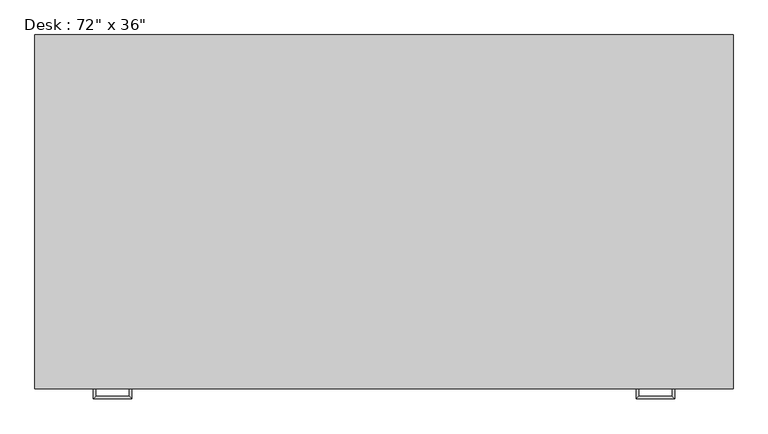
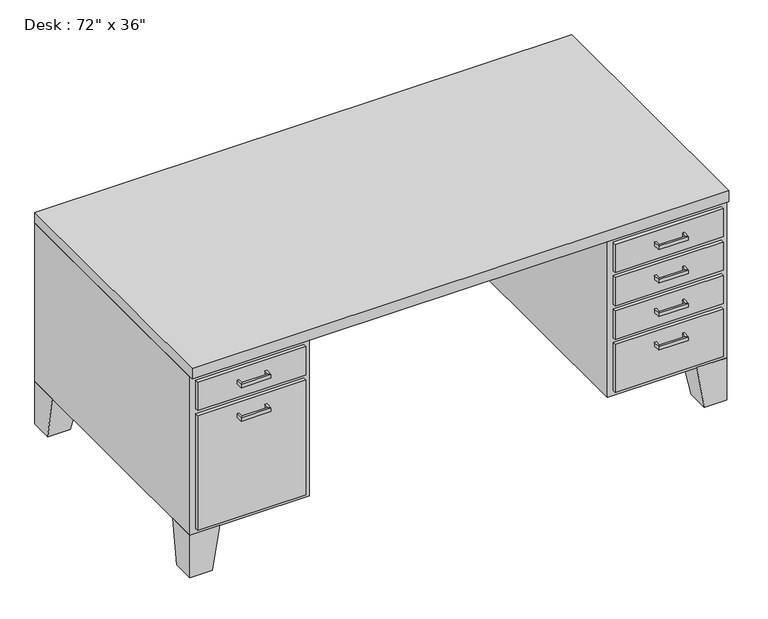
"""IFC4 building model written with IfcOpenShell, lengths in millimetres: furniture geometry."""

from ifc_helpers import new_model, si_unit, frame, origin, place, context, project, spatial, polyline, outline, extrude, faceted_brep, source, transform, mapped, element, save


def furniture_33f25304(model_context):
    return source(origin(), model_context, "Body", "SolidModel", [
        extrude(outline(polyline([(-133.35, -76.2), (234.95, -76.2), (234.95, -88.9), (-133.35, -88.9), (-133.35, -76.2)])), frame((0.0, 0.0, 603.25), z_axis=(0.0, 0.0, 1.0), x_axis=(1.0, 0.0, 0.0)), (0.0, 0.0, 1.0), 101.6),
        extrude(outline(polyline([(-133.35, -76.2), (234.95, -76.2), (234.95, -88.9), (-133.35, -88.9), (-133.35, -76.2)])), frame((0.0, 0.0, 171.45), z_axis=(0.0, 0.0, 1.0), x_axis=(1.0, 0.0, 0.0)), (0.0, 0.0, 1.0), 412.75),
        extrude(outline(polyline([(1289.05, -76.2), (1657.35, -76.2), (1657.35, -88.9), (1289.05, -88.9), (1289.05, -76.2)])), frame((0.0, 0.0, 603.25), z_axis=(0.0, 0.0, 1.0), x_axis=(1.0, 0.0, 0.0)), (0.0, 0.0, 1.0), 101.6),
        extrude(outline(polyline([(1289.05, -76.2), (1657.35, -76.2), (1657.35, -88.9), (1289.05, -88.9), (1289.05, -76.2)])), frame((0.0, 0.0, 171.45), z_axis=(0.0, 0.0, 1.0), x_axis=(1.0, 0.0, 0.0)), (0.0, 0.0, 1.0), 171.45),
        extrude(outline(polyline([(1289.05, -76.2), (1657.35, -76.2), (1657.35, -88.9), (1289.05, -88.9), (1289.05, -76.2)])), frame((0.0, 0.0, 482.6), z_axis=(0.0, 0.0, 1.0), x_axis=(1.0, 0.0, 0.0)), (0.0, 0.0, 1.0), 101.6),
        extrude(outline(polyline([(1289.05, -76.2), (1657.35, -76.2), (1657.35, -88.9), (1289.05, -88.9), (1289.05, -76.2)])), frame((0.0, 0.0, 361.95), z_axis=(0.0, 0.0, 1.0), x_axis=(1.0, 0.0, 0.0)), (0.0, 0.0, 1.0), 101.6),
        faceted_brep([(-50.8, -76.2, 152.4), (-50.8, 25.4, 152.4), (-152.4, 25.4, 152.4), (-152.4, -76.2, 152.4), (-76.2, -76.2, 0.0), (-152.4, -76.2, 0.0), (-152.4, 0.0, 0.0), (-76.2, 0.0, 0.0)], [[[0, 1, 2, 3]], [[4, 5, 6, 7]], [[4, 7, 1, 0]], [[7, 6, 2, 1]], [[6, 5, 3, 2]], [[5, 4, 0, 3]]]),
        faceted_brep([(-50.8, 838.2, 152.4), (-152.4, 838.2, 152.4), (-152.4, 736.6, 152.4), (-50.8, 736.6, 152.4), (-76.2, 838.2, 0.0), (-76.2, 762.0, 0.0), (-152.4, 762.0, 0.0), (-152.4, 838.2, 0.0)], [[[0, 1, 2, 3]], [[4, 5, 6, 7]], [[4, 7, 1, 0]], [[7, 6, 2, 1]], [[6, 5, 3, 2]], [[5, 4, 0, 3]]]),
        faceted_brep([(1574.8, 838.2, 152.4), (1574.8, 736.6, 152.4), (1676.4, 736.6, 152.4), (1676.4, 838.2, 152.4), (1600.2, 838.2, 0.0), (1676.4, 838.2, 0.0), (1676.4, 762.0, 0.0), (1600.2, 762.0, 0.0)], [[[0, 1, 2, 3]], [[4, 5, 6, 7]], [[4, 7, 1, 0]], [[7, 6, 2, 1]], [[6, 5, 3, 2]], [[5, 4, 0, 3]]]),
        faceted_brep([(1574.8, -76.2, 152.4), (1676.4, -76.2, 152.4), (1676.4, 25.4, 152.4), (1574.8, 25.4, 152.4), (1600.2, -76.2, 0.0), (1600.2, 0.0, 0.0), (1676.4, 0.0, 0.0), (1676.4, -76.2, 0.0)], [[[0, 1, 2, 3]], [[4, 5, 6, 7]], [[4, 7, 1, 0]], [[7, 6, 2, 1]], [[6, 5, 3, 2]], [[5, 4, 0, 3]]]),
        extrude(outline(polyline([(-152.4, -88.9), (-152.4, 838.2), (1676.4, 838.2), (1676.4, -88.9), (-152.4, -88.9)])), frame((0.0, 0.0, 723.9), z_axis=(0.0, 0.0, 1.0), x_axis=(1.0, 0.0, 0.0)), (0.0, 0.0, 1.0), 38.1),
        extrude(outline(polyline([(1270.0, -76.2), (1270.0, 711.2), (254.0, 711.2), (254.0, -76.2), (-152.4, -76.2), (-152.4, 838.2), (1676.4, 838.2), (1676.4, -76.2), (1270.0, -76.2)])), frame((0.0, 0.0, 152.4), z_axis=(0.0, 0.0, 1.0), x_axis=(1.0, 0.0, 0.0)), (0.0, 0.0, 1.0), 571.5),
        faceted_brep([(6.35, -88.9, 546.1), (6.35, -88.9, 533.4), (0.0, -88.9, 533.4), (0.0, -88.9, 546.1), (6.35, -107.95, 546.1), (6.35, -107.95, 533.4), (0.0, -114.3, 533.4), (0.0, -114.3, 546.1), (95.25, -107.95, 546.1), (95.25, -107.95, 533.4), (101.6, -114.3, 533.4), (101.6, -114.3, 546.1), (95.25, -88.9, 546.1), (101.6, -88.9, 546.1), (101.6, -88.9, 533.4), (95.25, -88.9, 533.4)], [[[0, 1, 2, 3]], [[1, 0, 4, 5]], [[2, 1, 5, 6]], [[3, 2, 6, 7]], [[0, 3, 7, 4]], [[5, 4, 8, 9]], [[6, 5, 9, 10]], [[7, 6, 10, 11]], [[4, 7, 11, 8]], [[12, 13, 14, 15]], [[9, 8, 12, 15]], [[10, 9, 15, 14]], [[11, 10, 14, 13]], [[8, 11, 13, 12]]]),
        faceted_brep([(6.35, -88.9, 666.75), (6.35, -88.9, 654.05), (0.0, -88.9, 654.05), (0.0, -88.9, 666.75), (6.35, -107.95, 666.75), (6.35, -107.95, 654.05), (0.0, -114.3, 654.05), (0.0, -114.3, 666.75), (95.25, -107.95, 666.75), (95.25, -107.95, 654.05), (101.6, -114.3, 654.05), (101.6, -114.3, 666.75), (95.25, -88.9, 666.75), (101.6, -88.9, 666.75), (101.6, -88.9, 654.05), (95.25, -88.9, 654.05)], [[[0, 1, 2, 3]], [[1, 0, 4, 5]], [[2, 1, 5, 6]], [[3, 2, 6, 7]], [[0, 3, 7, 4]], [[5, 4, 8, 9]], [[6, 5, 9, 10]], [[7, 6, 10, 11]], [[4, 7, 11, 8]], [[12, 13, 14, 15]], [[9, 8, 12, 15]], [[10, 9, 15, 14]], [[11, 10, 14, 13]], [[8, 11, 13, 12]]]),
        faceted_brep([(1517.65, -88.9, 304.8), (1524.0, -88.9, 304.8), (1524.0, -88.9, 292.1), (1517.65, -88.9, 292.1), (1517.65, -107.95, 304.8), (1524.0, -114.3, 304.8), (1524.0, -114.3, 292.1), (1517.65, -107.95, 292.1), (1428.75, -107.95, 304.8), (1422.4, -114.3, 304.8), (1422.4, -114.3, 292.1), (1428.75, -107.95, 292.1), (1428.75, -88.9, 304.8), (1428.75, -88.9, 292.1), (1422.4, -88.9, 292.1), (1422.4, -88.9, 304.8)], [[[0, 1, 2, 3]], [[1, 0, 4, 5]], [[2, 1, 5, 6]], [[3, 2, 6, 7]], [[0, 3, 7, 4]], [[5, 4, 8, 9]], [[6, 5, 9, 10]], [[7, 6, 10, 11]], [[4, 7, 11, 8]], [[12, 13, 14, 15]], [[9, 8, 12, 15]], [[10, 9, 15, 14]], [[11, 10, 14, 13]], [[8, 11, 13, 12]]]),
        faceted_brep([(1517.65, -88.9, 425.45), (1524.0, -88.9, 425.45), (1524.0, -88.9, 412.75), (1517.65, -88.9, 412.75), (1517.65, -107.95, 425.45), (1524.0, -114.3, 425.45), (1524.0, -114.3, 412.75), (1517.65, -107.95, 412.75), (1428.75, -107.95, 425.45), (1422.4, -114.3, 425.45), (1422.4, -114.3, 412.75), (1428.75, -107.95, 412.75), (1428.75, -88.9, 425.45), (1428.75, -88.9, 412.75), (1422.4, -88.9, 412.75), (1422.4, -88.9, 425.45)], [[[0, 1, 2, 3]], [[1, 0, 4, 5]], [[2, 1, 5, 6]], [[3, 2, 6, 7]], [[0, 3, 7, 4]], [[5, 4, 8, 9]], [[6, 5, 9, 10]], [[7, 6, 10, 11]], [[4, 7, 11, 8]], [[12, 13, 14, 15]], [[9, 8, 12, 15]], [[10, 9, 15, 14]], [[11, 10, 14, 13]], [[8, 11, 13, 12]]]),
        faceted_brep([(1517.65, -88.9, 546.1), (1524.0, -88.9, 546.1), (1524.0, -88.9, 533.4), (1517.65, -88.9, 533.4), (1517.65, -107.95, 546.1), (1524.0, -114.3, 546.1), (1524.0, -114.3, 533.4), (1517.65, -107.95, 533.4), (1428.75, -107.95, 546.1), (1422.4, -114.3, 546.1), (1422.4, -114.3, 533.4), (1428.75, -107.95, 533.4), (1428.75, -88.9, 546.1), (1428.75, -88.9, 533.4), (1422.4, -88.9, 533.4), (1422.4, -88.9, 546.1)], [[[0, 1, 2, 3]], [[1, 0, 4, 5]], [[2, 1, 5, 6]], [[3, 2, 6, 7]], [[0, 3, 7, 4]], [[5, 4, 8, 9]], [[6, 5, 9, 10]], [[7, 6, 10, 11]], [[4, 7, 11, 8]], [[12, 13, 14, 15]], [[9, 8, 12, 15]], [[10, 9, 15, 14]], [[11, 10, 14, 13]], [[8, 11, 13, 12]]]),
        faceted_brep([(1517.65, -88.9, 666.75), (1524.0, -88.9, 666.75), (1524.0, -88.9, 654.05), (1517.65, -88.9, 654.05), (1517.65, -107.95, 666.75), (1524.0, -114.3, 666.75), (1524.0, -114.3, 654.05), (1517.65, -107.95, 654.05), (1428.75, -107.95, 666.75), (1422.4, -114.3, 666.75), (1422.4, -114.3, 654.05), (1428.75, -107.95, 654.05), (1428.75, -88.9, 666.75), (1428.75, -88.9, 654.05), (1422.4, -88.9, 654.05), (1422.4, -88.9, 666.75)], [[[0, 1, 2, 3]], [[1, 0, 4, 5]], [[2, 1, 5, 6]], [[3, 2, 6, 7]], [[0, 3, 7, 4]], [[5, 4, 8, 9]], [[6, 5, 9, 10]], [[7, 6, 10, 11]], [[4, 7, 11, 8]], [[12, 13, 14, 15]], [[9, 8, 12, 15]], [[10, 9, 15, 14]], [[11, 10, 14, 13]], [[8, 11, 13, 12]]]),
    ])


if __name__ == "__main__":
    model = new_model("IFC4")
    model_context = context("Model", 3, world=origin())
    ifc_project = project(units=[si_unit("LENGTHUNIT", "METRE", prefix="MILLI")], contexts=[model_context])
    site = spatial("IfcSite", under=ifc_project)
    building = spatial("IfcBuilding", under=site)
    placement = place(None, origin())
    furniture_shape = furniture_33f25304(model_context)
    element("IfcFurniture", 1, ObjectType="Desk : 72\" x 36\"", at=placement, inside=building, context=model_context, shape_type="MappedRepresentation", body=[
        mapped(furniture_shape, transform((0.0, 0.0, 0.0), x_axis=(1.0, 0.0, 0.0), y_axis=(0.0, 1.0, 0.0), z_axis=(0.0, 0.0, 1.0))),
    ])
    save(model, "model.ifc")
